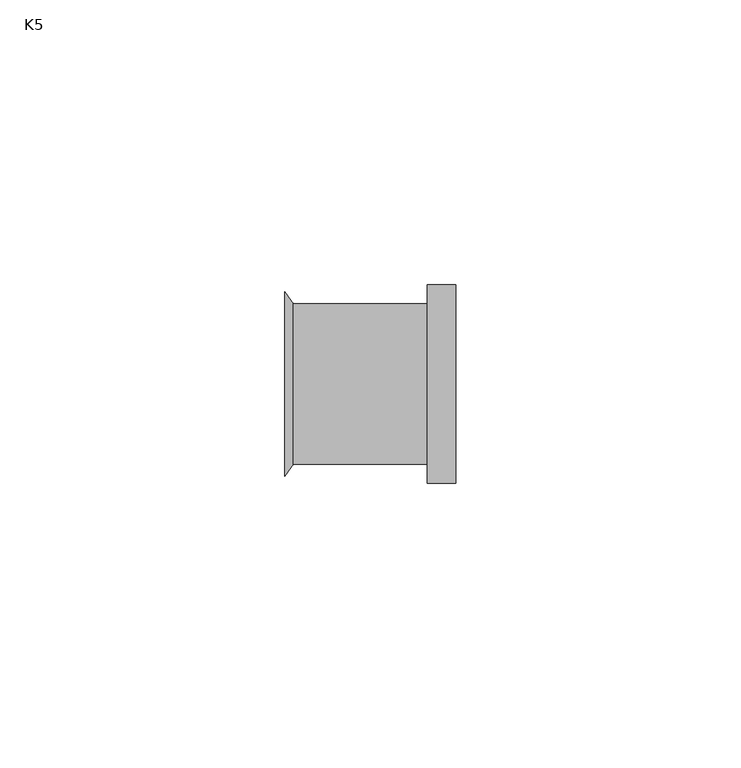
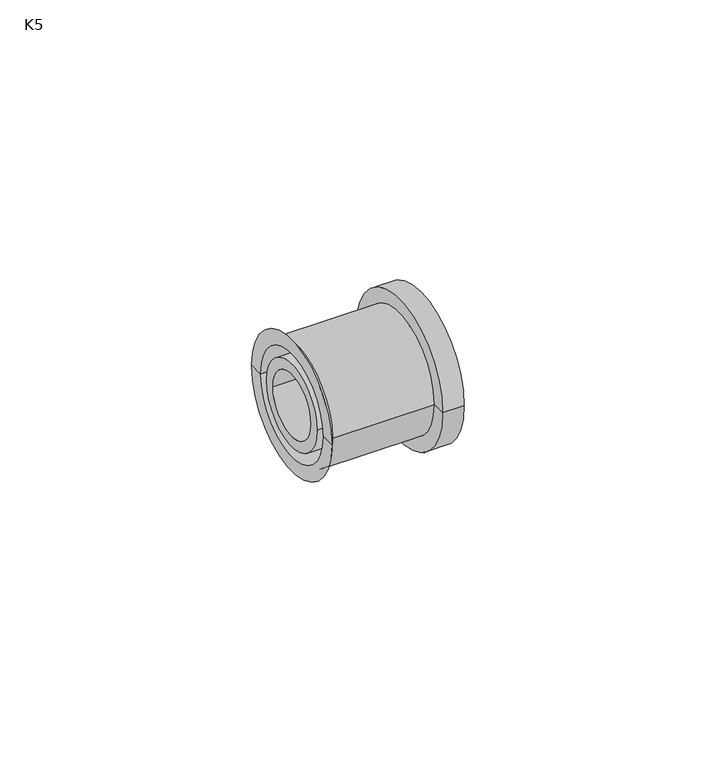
"""IFC4 building model written with IfcOpenShell, lengths in millimetres: pipe fitting geometry, AmancoWavin_Unionesdetubería_TigrisFlexZNoUsarCampana : K5."""

import ifcopenshell
import ifcopenshell.guid

model = None  # the IFC model being written
_history = None  # IfcOwnerHistory: only IFC2X3 demands one
_inside = {}  # id of a spatial element -> (the spatial element, [elements in it])
_under = {}  # id of a project, library or spatial element -> (it, [spatial elements below it])
_declared = {}  # id of a project -> (the project, [libraries it declares])
_typed = {}  # id of a type object -> (the type object, [elements of that type])
_made_of = {}  # id of a material, layer set ... -> (it, [elements and type objects made of it])


def new_model(schema):
    """Start an empty IFC model of exactly this schema.

    Asked for "IFC4X3", IfcOpenShell would pick the latest addendum, in which some entities
    have other attributes; the version numbers below select the first issue.
    IFC2X3 requires an IfcOwnerHistory on every rooted entity: one is made here for all.
    """
    global model, _history
    if schema == "IFC4X3":
        model = ifcopenshell.file(schema_version=(4, 3, 0, 0))
    else:
        model = ifcopenshell.file(schema=schema)
    _inside.clear()
    _under.clear()
    _declared.clear()
    _typed.clear()
    _made_of.clear()
    _history = None
    if model.schema == "IFC2X3":
        org = make("IfcOrganization", Name="unknown")
        user = make(
            "IfcPersonAndOrganization",
            ThePerson=make("IfcPerson", FamilyName="unknown"),
            TheOrganization=org,
        )
        app = make(
            "IfcApplication",
            ApplicationDeveloper=org,
            Version="unknown",
            ApplicationFullName="unknown",
            ApplicationIdentifier="unknown",
        )
        _history = make(
            "IfcOwnerHistory",
            OwningUser=user,
            OwningApplication=app,
            ChangeAction="ADDED",
            CreationDate=0,
        )
    return model


def make(cls, **values):
    """One entity of the class cls with the attributes given. An attribute that is None is left unset."""
    return model.create_entity(
        cls, **{name: value for name, value in values.items() if value is not None}
    )


def rooted(cls, **values):
    """An entity with a GlobalId (a new one), such as an element, a storey or a relation."""
    return make(cls, GlobalId=ifcopenshell.guid.new(), OwnerHistory=_history, **values)


def si_unit(unit_type, name, prefix=None):
    """IfcSIUnit, for example si_unit("LENGTHUNIT", "METRE", prefix="MILLI")."""
    return make("IfcSIUnit", UnitType=unit_type, Prefix=prefix, Name=name)


def assignment(units):
    """IfcUnitAssignment: the units of a project."""
    return None if units is None else make("IfcUnitAssignment", Units=units)


def point(xyz):
    """IfcCartesianPoint."""
    return None if xyz is None else make("IfcCartesianPoint", Coordinates=xyz)


def direction(xyz):
    """IfcDirection."""
    return None if xyz is None else make("IfcDirection", DirectionRatios=xyz)


def frame(location, z_axis=None, x_axis=None):
    """IfcAxis2Placement3D, a coordinate frame: its origin and axes. An axis left out is left unset."""
    return make(
        "IfcAxis2Placement3D",
        Location=point(location),
        Axis=direction(z_axis),
        RefDirection=direction(x_axis),
    )


def frame_2d(location, x_axis=None):
    """IfcAxis2Placement2D, a coordinate frame in the plane: its origin and x axis."""
    return make(
        "IfcAxis2Placement2D", Location=point(location), RefDirection=direction(x_axis)
    )


def origin():
    """The frame at (0, 0, 0) with its axes left unset."""
    return frame((0.0, 0.0, 0.0))


def origin_2d():
    """The frame at (0, 0) in the plane with its x axis left unset."""
    return frame_2d((0.0, 0.0))


def place(relative_to, where):
    """IfcLocalPlacement: puts the frame where relative to a parent placement (None: the world)."""
    return make(
        "IfcLocalPlacement", PlacementRelTo=relative_to, RelativePlacement=where
    )


def context(
    kind, dimensions, precision=None, world=None, true_north=None, identifier=None
):
    """IfcGeometricRepresentationContext, for example the 3D "Model" context."""
    return make(
        "IfcGeometricRepresentationContext",
        ContextIdentifier=identifier,
        ContextType=kind,
        CoordinateSpaceDimension=dimensions,
        Precision=precision,
        WorldCoordinateSystem=world,
        TrueNorth=true_north,
    )


def project(units=None, contexts=None):
    """IfcProject with its units and contexts."""
    return rooted(
        "IfcProject",
        Name="project",
        RepresentationContexts=contexts,
        UnitsInContext=assignment(units),
    )


def spatial(cls, under=None, at=None, **own):
    """A site, building, storey or space (cls), placed at a placement, below another one or the project."""
    s = rooted(cls, ObjectPlacement=at, **own)
    if under is not None:
        _under.setdefault(under.id(), (under, []))[1].append(s)
    return s


def polyline(points):
    """IfcPolyline through the points."""
    return make("IfcPolyline", Points=[point(p) for p in points])


def circle_curve(where, radius):
    """IfcCircle in the frame where."""
    return make("IfcCircle", Position=where, Radius=radius)


def trimmed(basis, trim1, trim2, sense, master):
    """IfcTrimmedCurve: the piece of a basis curve between two trims."""
    return make(
        "IfcTrimmedCurve",
        BasisCurve=basis,
        Trim1=trim1,
        Trim2=trim2,
        SenseAgreement=sense,
        MasterRepresentation=master,
    )


def segment(curve, same_sense, transition):
    """IfcCompositeCurveSegment."""
    return make(
        "IfcCompositeCurveSegment",
        Transition=transition,
        SameSense=same_sense,
        ParentCurve=curve,
    )


def composite_curve(segments, self_intersect=None):
    """IfcCompositeCurve: segments joined end to end."""
    return make("IfcCompositeCurve", Segments=segments, SelfIntersect=self_intersect)


def outline(outer, holes=None, kind="AREA"):
    """IfcArbitraryClosedProfileDef: a profile drawn as a closed curve; with holes, ...WithVoids."""
    if holes is None:
        return make("IfcArbitraryClosedProfileDef", ProfileType=kind, OuterCurve=outer)
    return make(
        "IfcArbitraryProfileDefWithVoids",
        ProfileType=kind,
        OuterCurve=outer,
        InnerCurves=holes,
    )


def extrude(swept, where, along, depth):
    """IfcExtrudedAreaSolid: the profile swept, set in the frame where, extruded along a direction by depth."""
    return make(
        "IfcExtrudedAreaSolid",
        SweptArea=swept,
        Position=where,
        ExtrudedDirection=direction(along),
        Depth=depth,
    )


def shape(context_of_items, identifier, shape_type, items):
    """IfcShapeRepresentation: the items that make up one representation, for example the "Body"."""
    return make(
        "IfcShapeRepresentation",
        ContextOfItems=context_of_items,
        RepresentationIdentifier=identifier,
        RepresentationType=shape_type,
        Items=items,
    )


def source(mapping_origin, context_of_items, identifier, shape_type, items):
    """IfcRepresentationMap: a shape defined once, which mapped items show again and again."""
    return make(
        "IfcRepresentationMap",
        MappingOrigin=mapping_origin,
        MappedRepresentation=shape(context_of_items, identifier, shape_type, items),
    )


def transform(
    local_origin,
    x_axis=None,
    y_axis=None,
    z_axis=None,
    scale=None,
    scale2=None,
    scale3=None,
    uniform=True,
):
    """IfcCartesianTransformationOperator3D, or its non-uniform kind. x_axis, y_axis, z_axis: its Axis1, 2, 3."""
    if uniform:
        return make(
            "IfcCartesianTransformationOperator3D",
            Axis1=direction(x_axis),
            Axis2=direction(y_axis),
            LocalOrigin=point(local_origin),
            Scale=scale,
            Axis3=direction(z_axis),
        )
    return make(
        "IfcCartesianTransformationOperator3DnonUniform",
        Axis1=direction(x_axis),
        Axis2=direction(y_axis),
        LocalOrigin=point(local_origin),
        Scale=scale,
        Axis3=direction(z_axis),
        Scale2=scale2,
        Scale3=scale3,
    )


def mapped(mapping_source, mapping_target):
    """IfcMappedItem: shows the shape of a source again, moved by a transform."""
    return make(
        "IfcMappedItem", MappingSource=mapping_source, MappingTarget=mapping_target
    )


def made_of(thing, what):
    """Note that an element or type object is made of a material, layer set ...; save() writes the relation."""
    if what is not None:
        _made_of.setdefault(what.id(), (what, []))[1].append(thing)
    return thing


def element(
    cls,
    number,
    at=None,
    inside=None,
    cuts=None,
    type_object=None,
    material=None,
    context=None,
    identifier="Body",
    shape_type=None,
    held_by="IfcProductDefinitionShape",
    body=None,
    shapes=None,
    **own,
):
    """One element of the class cls, such as IfcWall. Its Tag is "e" and its number.

    at: its placement. inside: the storey or other place that contains it. cuts: it is an
    opening in that element (IfcRelVoidsElement). A single representation is given by context,
    identifier, shape_type and body (its items); several are given by shapes. held_by: the class
    of the entity that holds the representations. save() writes the other relations.
    """
    e = rooted(cls, Tag="e%d" % number, ObjectPlacement=at, **own)
    if body is not None:
        shapes = [shape(context, identifier, shape_type, body)]
    if shapes is not None:
        e.Representation = make(held_by, Representations=shapes)
    if inside is not None:
        _inside.setdefault(inside.id(), (inside, []))[1].append(e)
    if cuts is not None:
        rooted(
            "IfcRelVoidsElement", RelatingBuildingElement=cuts, RelatedOpeningElement=e
        )
    if type_object is not None:
        _typed.setdefault(type_object.id(), (type_object, []))[1].append(e)
    return made_of(e, material)


def aggregate(whole, parts):
    """IfcRelAggregates: a whole, such as a stair, and the parts it consists of."""
    return rooted("IfcRelAggregates", RelatingObject=whole, RelatedObjects=parts)


def save(model, path):
    """Write the relations noted so far, then the file.

    IfcRelAggregates (storeys below a building ...), IfcRelContainedInSpatialStructure (elements
    in a storey), IfcRelDefinesByType, IfcRelAssociatesMaterial and IfcRelDeclares: one each for
    every whole, place, type object, material and project.
    """
    for whole, parts in _under.values():
        aggregate(whole, parts)
    for where, things in _inside.values():
        rooted(
            "IfcRelContainedInSpatialStructure",
            RelatedElements=things,
            RelatingStructure=where,
        )
    for kind, things in _typed.values():
        rooted("IfcRelDefinesByType", RelatedObjects=things, RelatingType=kind)
    for what, things in _made_of.values():
        rooted("IfcRelAssociatesMaterial", RelatedObjects=things, RelatingMaterial=what)
    for by, libraries in _declared.values():
        rooted("IfcRelDeclares", RelatingContext=by, RelatedDefinitions=libraries)
    model.write(path)


def plane_surface(at):
    """IfcPlane: the flat surface through the origin of the frame at, square to its z axis."""
    return make("IfcPlane", Position=at)


def cylinder_surface(at, radius):
    """IfcCylindricalSurface: all points at the distance radius from the z axis of the frame at."""
    return make("IfcCylindricalSurface", Position=at, Radius=radius)


def revolved_surface(curve, axis_point, axis_direction):
    """IfcSurfaceOfRevolution: the curve turned about the line through axis_point along axis_direction."""
    return make(
        "IfcSurfaceOfRevolution",
        SweptCurve=make("IfcArbitraryOpenProfileDef", ProfileType="CURVE", Curve=curve),
        AxisPosition=make("IfcAxis1Placement", Location=point(axis_point), Axis=direction(axis_direction)),
    )


def advanced_brep(points, edges, surfaces, faces):
    """IfcAdvancedBrep: a solid bounded by faces that lie on surfaces and meet in shared edges.

    An edge is (start, end): straight between two places in points (the first is 0);
    or (start, end, curve); or (start, end, curve, False) where it runs against its curve.
    A face is (place in surfaces, loops), or (place, loops, False) where it looks against
    its surface's normal. A loop lists edges by number (the first is 1), with a minus sign
    where the edge is run from its end to its start. The first loop is the outer one.
    """
    corners = [point(p) for p in points]
    vertices = [make("IfcVertexPoint", VertexGeometry=c) for c in corners]
    made = []
    for start, end, *more in edges:
        made.append(
            make(
                "IfcEdgeCurve",
                EdgeStart=vertices[start],
                EdgeEnd=vertices[end],
                EdgeGeometry=more[0] if more else make("IfcPolyline", Points=[corners[start], corners[end]]),
                SameSense=more[1] if len(more) > 1 else True,
            )
        )
    hull = []
    for where, loops, *sense in faces:
        bounds = []
        for j, loop in enumerate(loops):
            ring = [make("IfcOrientedEdge", EdgeElement=made[abs(k) - 1], Orientation=k > 0) for k in loop]
            bounds.append(
                make(
                    "IfcFaceOuterBound" if j == 0 else "IfcFaceBound",
                    Bound=make("IfcEdgeLoop", EdgeList=ring),
                    Orientation=True,
                )
            )
        hull.append(make("IfcAdvancedFace", Bounds=bounds, FaceSurface=surfaces[where], SameSense=sense[0] if sense else True))
    return make("IfcAdvancedBrep", Outer=make("IfcClosedShell", CfsFaces=hull))


def k5_579bd2f6(model_context):
    return source(origin(), model_context, "Body", "SolidModel", [
        advanced_brep(
        [(-5.0, -14.075, 0.0), (-5.0, 14.075, 0.0), (-5.0, 17.4, 0.0), (-5.0, -17.4, 0.0), (-28.5489984, -14.075, 0.0), (-28.5489984, 14.075, 0.0), (-30.0, -12.7, 0.0), (-30.0, 12.7, 0.0), (-30.0, 16.15, 0.0), (-30.0, -16.15, 0.0), (-5.0, -12.7, 0.0), (-5.0, 12.7, 0.0), (-5.0, 0.0, 0.0), (0.0, -17.4, 0.0), (0.0, 17.4, 0.0), (0.0, 0.0, 0.0)],
        [
            (0, 1, circle_curve(frame((-5.0, 0.0, 0.0), z_axis=(1.0, 0.0, 0.0), x_axis=(0.0, 1.0, 0.0)), 14.075)),
            (1, 2),
            (2, 3, circle_curve(frame((-5.0, 0.0, 0.0), z_axis=(-1.0, 0.0, 0.0), x_axis=(0.0, 1.0, 0.0)), 17.4)),
            (3, 0),
            (1, 0, circle_curve(frame((-5.0, 0.0, 0.0), z_axis=(1.0, 0.0, 0.0), x_axis=(0.0, 1.0, 0.0)), 14.075)),
            (3, 2, circle_curve(frame((-5.0, 0.0, 0.0), z_axis=(-1.0, 0.0, 0.0), x_axis=(0.0, 1.0, 0.0)), 17.4)),
            (4, 5, circle_curve(frame((-28.5489984, 0.0, 0.0), z_axis=(1.0, 0.0, 0.0), x_axis=(0.0, 1.0, 0.0)), 14.075)),
            (5, 1),
            (0, 4),
            (5, 4, circle_curve(frame((-28.5489984, 0.0, 0.0), z_axis=(1.0, 0.0, 0.0), x_axis=(0.0, 1.0, 0.0)), 14.075)),
            (6, 7, circle_curve(frame((-30.0, 0.0, 0.0), z_axis=(1.0, 0.0, 0.0), x_axis=(0.0, 1.0, 0.0)), 12.7)),
            (7, 8),
            (8, 9, circle_curve(frame((-30.0, 0.0, 0.0), z_axis=(-1.0, 0.0, 0.0), x_axis=(0.0, 1.0, 0.0)), 16.15)),
            (9, 6),
            (7, 6, circle_curve(frame((-30.0, 0.0, 0.0), z_axis=(1.0, 0.0, 0.0), x_axis=(0.0, 1.0, 0.0)), 12.7)),
            (9, 8, circle_curve(frame((-30.0, 0.0, 0.0), z_axis=(-1.0, 0.0, 0.0), x_axis=(0.0, 1.0, 0.0)), 16.15)),
            (10, 11, circle_curve(frame((-5.0, 0.0, 0.0), z_axis=(1.0, 0.0, 0.0), x_axis=(0.0, 1.0, 0.0)), 12.7)),
            (11, 7),
            (6, 10),
            (11, 10, circle_curve(frame((-5.0, 0.0, 0.0), z_axis=(1.0, 0.0, 0.0), x_axis=(0.0, 1.0, 0.0)), 12.7)),
            (12, 11),
            (10, 12),
            (13, 14, circle_curve(frame((0.0, 0.0, 0.0), z_axis=(1.0, 0.0, 0.0), x_axis=(0.0, 1.0, 0.0)), 17.4)),
            (14, 15),
            (15, 13),
            (14, 13, circle_curve(frame((0.0, 0.0, 0.0), z_axis=(1.0, 0.0, 0.0), x_axis=(0.0, 1.0, 0.0)), 17.4)),
            (2, 14),
            (13, 3),
            (8, 5),
            (4, 9),
        ],
        [
            plane_surface(frame((-5.0, 0.0, 0.0), z_axis=(-1.0, 0.0, 0.0), x_axis=(0.0, 1.0, 0.0))),
            cylinder_surface(frame((1999.0, 0.0, 0.0), z_axis=(-1.0, 0.0, 0.0), x_axis=(0.0, 1.0, 0.0)), 14.075),
            plane_surface(frame((-30.0, 0.0, 0.0), z_axis=(-1.0, 0.0, 0.0), x_axis=(0.0, 1.0, 0.0))),
            revolved_surface(polyline([(-30.0, 12.7, 0.0), (-5.0, 12.7, 0.0)]), (1999.0, 0.0, 0.0), (-1.0, 0.0, 0.0)),
            plane_surface(frame((0.0, 0.0, 0.0), z_axis=(1.0, 0.0, 0.0), x_axis=(0.0, 1.0, 0.0))),
            cylinder_surface(frame((1999.0, 0.0, 0.0), z_axis=(-1.0, 0.0, 0.0), x_axis=(0.0, 1.0, 0.0)), 17.4),
            revolved_surface(polyline([(-28.5489984, 14.075, 0.0), (-30.0, 16.15, 0.0)]), (1999.0, 0.0, 0.0), (-1.0, 0.0, 0.0)),
        ],
        [
            (0, [[1, 2, 3, 4]]),
            (0, [[5, -4, 6, -2]]),
            (1, [[7, 8, -1, 9]]),
            (1, [[10, -9, -5, -8]]),
            (2, [[11, 12, 13, 14]]),
            (2, [[15, -14, 16, -12]]),
            (3, [[17, 18, -11, 19]]),
            (3, [[20, -19, -15, -18]]),
            (0, [[21, -17, 22]]),
            (0, [[-22, -20, -21]]),
            (4, [[23, 24, 25]]),
            (4, [[26, -25, -24]]),
            (5, [[-3, 27, -23, 28]]),
            (5, [[-6, -28, -26, -27]]),
            (6, [[-13, 29, -7, 30]]),
            (6, [[-16, -30, -10, -29]]),
        ],
    ),
        extrude(outline(composite_curve([segment(trimmed(circle_curve(origin_2d(), 10.15), [point((-10.15, 0.0))], [point((10.15, 0.0))], False, "CARTESIAN"), True, "CONTINUOUS"), segment(trimmed(circle_curve(origin_2d(), 10.15), [point((10.15, 0.0))], [point((-10.15, 0.0))], False, "CARTESIAN"), True, "CONTINUOUS")], self_intersect=False), holes=[composite_curve([segment(trimmed(circle_curve(origin_2d(), 7.6), [point((-7.6, 0.0))], [point((7.6, 0.0))], True, "CARTESIAN"), True, "CONTINUOUS"), segment(trimmed(circle_curve(origin_2d(), 7.6), [point((7.6, 0.0))], [point((-7.6, 0.0))], True, "CARTESIAN"), True, "CONTINUOUS")], self_intersect=False)]), frame((-30.0, 0.0, 0.0), z_axis=(1.0, 0.0, 0.0), x_axis=(0.0, 1.0, 0.0)), (0.0, 0.0, 1.0), 30.0),
    ])


if __name__ == "__main__":
    model = new_model("IFC4")
    model_context = context("Model", 3, world=origin())
    ifc_project = project(units=[si_unit("LENGTHUNIT", "METRE", prefix="MILLI")], contexts=[model_context])
    site = spatial("IfcSite", under=ifc_project)
    building = spatial("IfcBuilding", under=site)
    placement = place(None, origin())
    k5_shape = k5_579bd2f6(model_context)
    element("IfcPipeFitting", 1, ObjectType="AmancoWavin_Unionesdetubería_TigrisFlexZNoUsarCampana : K5", at=placement, inside=building, context=model_context, shape_type="MappedRepresentation", body=[
        mapped(k5_shape, transform((0.0, 0.0, 0.0), x_axis=(1.0, 0.0, 0.0), y_axis=(0.0, 1.0, 0.0), z_axis=(0.0, 0.0, 1.0))),
    ])
    save(model, "model.ifc")
